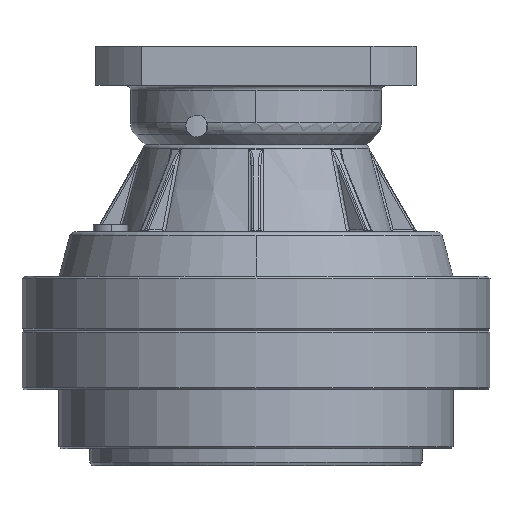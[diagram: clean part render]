
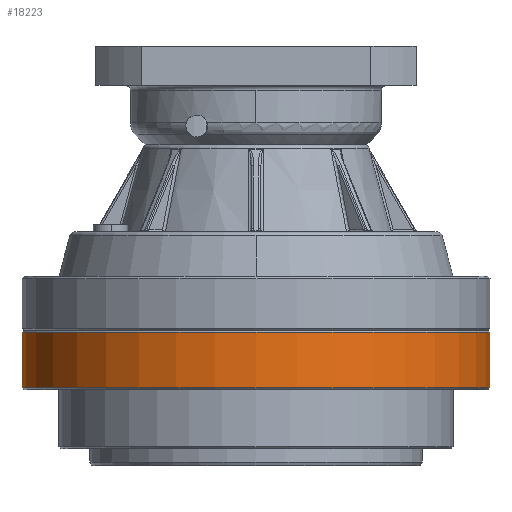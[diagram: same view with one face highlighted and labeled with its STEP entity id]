
A CAD part, front view. The second image highlights one B-rep face of the part: STEP entity #18223.
In plain terms, the highlighted cylindrical face has radius 95 mm (diameter 190 mm), a partial arc.
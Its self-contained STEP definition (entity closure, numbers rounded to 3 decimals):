
#2928 = EDGE_LOOP ( 'NONE', ( #11903, #31003, #51809, #120542 ) ) ;
#9522 = EDGE_CURVE ( 'NONE', #81030, #67035, #106498, .T. ) ;
#11903 = ORIENTED_EDGE ( 'NONE', *, *, #27608, .F. ) ;
#13774 = CARTESIAN_POINT ( 'NONE',  ( -95., 0., 0.8 ) ) ;
#18223 = ADVANCED_FACE ( 'NONE', ( #53305 ), #43613, .T. ) ;
#23146 = VERTEX_POINT ( 'NONE', #86474 ) ;
#27608 = EDGE_CURVE ( 'NONE', #67035, #23146, #35014, .T. ) ;
#28909 = DIRECTION ( 'NONE',  ( 0., 0., 1. ) ) ;
#29665 = DIRECTION ( 'NONE',  ( 0., 0., 1. ) ) ;
#31003 = ORIENTED_EDGE ( 'NONE', *, *, #9522, .F. ) ;
#35014 = LINE ( 'NONE', #84767, #116225 ) ;
#43613 = CYLINDRICAL_SURFACE ( 'NONE', #108488, 95. ) ;
#50556 = EDGE_CURVE ( 'NONE', #23146, #122905, #83609, .T. ) ;
#51809 = ORIENTED_EDGE ( 'NONE', *, *, #56450, .T. ) ;
#53305 = FACE_OUTER_BOUND ( 'NONE', #2928, .T. ) ;
#56450 = EDGE_CURVE ( 'NONE', #81030, #122905, #102155, .T. ) ;
#60227 = VECTOR ( 'NONE', #28909, 1000. ) ;
#62498 = CARTESIAN_POINT ( 'NONE',  ( -95., 0., 23.2 ) ) ;
#66819 = CARTESIAN_POINT ( 'NONE',  ( 0., 0., 0.8 ) ) ;
#67035 = VERTEX_POINT ( 'NONE', #94824 ) ;
#73837 = CARTESIAN_POINT ( 'NONE',  ( 0., 0., 23.2 ) ) ;
#77807 = AXIS2_PLACEMENT_3D ( 'NONE', #66819, #109028, #98621 ) ;
#81030 = VERTEX_POINT ( 'NONE', #13774 ) ;
#83609 = CIRCLE ( 'NONE', #118885, 95. ) ;
#84767 = CARTESIAN_POINT ( 'NONE',  ( 95., 0., 0. ) ) ;
#86474 = CARTESIAN_POINT ( 'NONE',  ( 95., 0., 23.2 ) ) ;
#89759 = CARTESIAN_POINT ( 'NONE',  ( -95., 0., 0. ) ) ;
#94824 = CARTESIAN_POINT ( 'NONE',  ( 95., 0., 0.8 ) ) ;
#94839 = CARTESIAN_POINT ( 'NONE',  ( 0., 0., 0. ) ) ;
#95521 = DIRECTION ( 'NONE',  ( 0., 0., 1. ) ) ;
#98621 = DIRECTION ( 'NONE',  ( -1., 0., 0. ) ) ;
#102155 = LINE ( 'NONE', #89759, #60227 ) ;
#106498 = CIRCLE ( 'NONE', #77807, 95. ) ;
#108488 = AXIS2_PLACEMENT_3D ( 'NONE', #94839, #95521, #125873 ) ;
#109028 = DIRECTION ( 'NONE',  ( 0., 0., -1. ) ) ;
#113914 = DIRECTION ( 'NONE',  ( -1., 0., 0. ) ) ;
#116225 = VECTOR ( 'NONE', #126853, 1000. ) ;
#118885 = AXIS2_PLACEMENT_3D ( 'NONE', #73837, #29665, #113914 ) ;
#120542 = ORIENTED_EDGE ( 'NONE', *, *, #50556, .F. ) ;
#122905 = VERTEX_POINT ( 'NONE', #62498 ) ;
#125873 = DIRECTION ( 'NONE',  ( -1., 0., 0. ) ) ;
#126853 = DIRECTION ( 'NONE',  ( 0., 0., 1. ) ) ;
